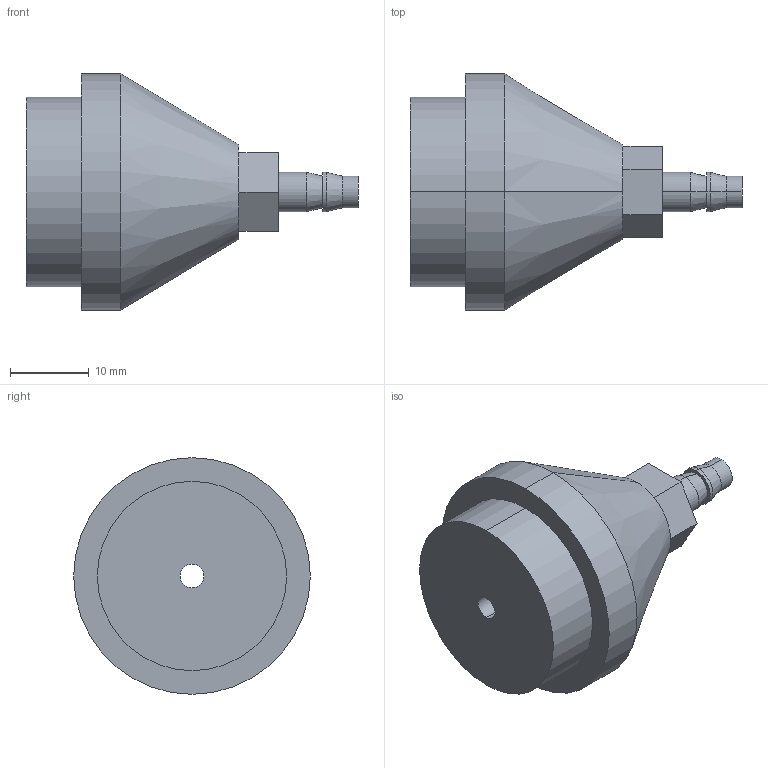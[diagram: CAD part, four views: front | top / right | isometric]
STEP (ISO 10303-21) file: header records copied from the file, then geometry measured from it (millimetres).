
FILE_DESCRIPTION (( 'STEP AP203' ), '1' );
FILE_NAME ('ER-ASTD.STEP', '2005-09-05T07:16:22', ( '' ), ( '' ), 'SwSTEP 2.0', 'SolidWorks 2004073', '' );
FILE_SCHEMA (( 'CONFIG_CONTROL_DESIGN' ));
Length unit declared in the file: millimetre
Products named in the file (1): ER-ASTD
Bounding box: 42.1 x 30 x 30 mm (x, y, z)
Volume: 12519.5 mm3; surface area: 3676.7 mm2
Topology: 1 solids, 1 shells, 30 faces, 64 edges, 40 vertices
Faces by surface type: plane 12, cylinder 12, cone 6
Entity records: 893 total; most frequent: DIRECTION 154, CARTESIAN_POINT 135, ORIENTED_EDGE 128, EDGE_CURVE 64, AXIS2_PLACEMENT_3D 59, VERTEX_POINT 40, EDGE_LOOP 36, VECTOR 36
